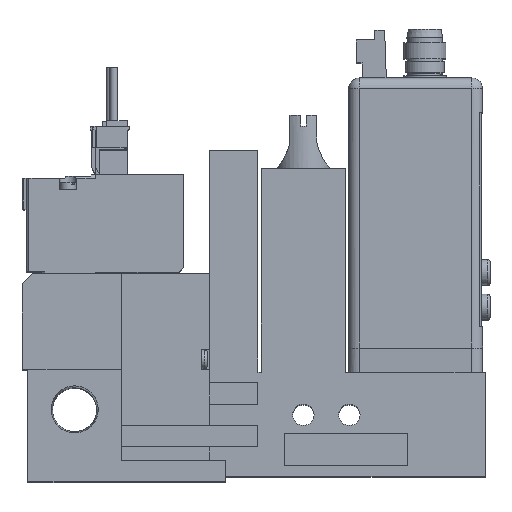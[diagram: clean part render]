
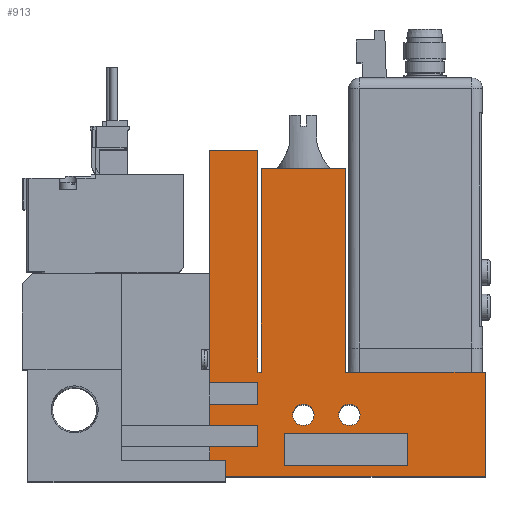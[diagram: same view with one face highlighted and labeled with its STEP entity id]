
A CAD part, top view. The second image highlights one B-rep face of the part: STEP entity #913.
In plain terms, the highlighted planar face has unit normal (0, 0, 1).
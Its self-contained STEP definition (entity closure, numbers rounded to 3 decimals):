
#913=ADVANCED_FACE('',(#3640,#3641,#3642,#3643),#3644,.T.);
#3640=FACE_OUTER_BOUND('',#9306,.T.);
#3641=FACE_BOUND('',#9307,.T.);
#3642=FACE_BOUND('',#9308,.T.);
#3643=FACE_BOUND('',#9309,.T.);
#3644=PLANE('',#9310);
#9306=EDGE_LOOP('',(#16607,#16608,#16609,#16610,#16611,#16612,#16613,#16614,#16615,#16616,#16617,#16618,#16619,#16620,#16621,#16622,#16623,#16624));
#9307=EDGE_LOOP('',(#16625,#16626,#16627,#16628));
#9308=EDGE_LOOP('',(#16629));
#9309=EDGE_LOOP('',(#16630));
#9310=AXIS2_PLACEMENT_3D('',#16631,#16632,#16633);
#16607=ORIENTED_EDGE('',*,*,#34669,.T.);
#16608=ORIENTED_EDGE('',*,*,#34670,.T.);
#16609=ORIENTED_EDGE('',*,*,#34671,.T.);
#16610=ORIENTED_EDGE('',*,*,#34672,.T.);
#16611=ORIENTED_EDGE('',*,*,#34673,.T.);
#16612=ORIENTED_EDGE('',*,*,#34674,.T.);
#16613=ORIENTED_EDGE('',*,*,#34675,.T.);
#16614=ORIENTED_EDGE('',*,*,#34676,.T.);
#16615=ORIENTED_EDGE('',*,*,#34677,.T.);
#16616=ORIENTED_EDGE('',*,*,#34678,.T.);
#16617=ORIENTED_EDGE('',*,*,#34679,.T.);
#16618=ORIENTED_EDGE('',*,*,#34680,.T.);
#16619=ORIENTED_EDGE('',*,*,#34681,.T.);
#16620=ORIENTED_EDGE('',*,*,#34682,.T.);
#16621=ORIENTED_EDGE('',*,*,#34683,.T.);
#16622=ORIENTED_EDGE('',*,*,#34684,.T.);
#16623=ORIENTED_EDGE('',*,*,#34685,.T.);
#16624=ORIENTED_EDGE('',*,*,#34686,.T.);
#16625=ORIENTED_EDGE('',*,*,#34687,.T.);
#16626=ORIENTED_EDGE('',*,*,#34688,.T.);
#16627=ORIENTED_EDGE('',*,*,#34689,.T.);
#16628=ORIENTED_EDGE('',*,*,#34690,.T.);
#16629=ORIENTED_EDGE('',*,*,#34691,.T.);
#16630=ORIENTED_EDGE('',*,*,#34692,.T.);
#16631=CARTESIAN_POINT('',(0.0,0.0,10.0));
#16632=DIRECTION('',(0.0,0.0,1.0));
#16633=DIRECTION('',(1.0,0.0,0.0));
#34669=EDGE_CURVE('',#41919,#41920,#41921,.T.);
#34670=EDGE_CURVE('',#41920,#41922,#41923,.T.);
#34671=EDGE_CURVE('',#41922,#41924,#41925,.T.);
#34672=EDGE_CURVE('',#41924,#41926,#41927,.T.);
#34673=EDGE_CURVE('',#41926,#41928,#41929,.T.);
#34674=EDGE_CURVE('',#41928,#41930,#41931,.T.);
#34675=EDGE_CURVE('',#41930,#41932,#41933,.T.);
#34676=EDGE_CURVE('',#41932,#41934,#41935,.T.);
#34677=EDGE_CURVE('',#41934,#41936,#41937,.T.);
#34678=EDGE_CURVE('',#41936,#41938,#41939,.T.);
#34679=EDGE_CURVE('',#41938,#41940,#41941,.T.);
#34680=EDGE_CURVE('',#41940,#41942,#41943,.T.);
#34681=EDGE_CURVE('',#41942,#41944,#41945,.T.);
#34682=EDGE_CURVE('',#41944,#41946,#41947,.T.);
#34683=EDGE_CURVE('',#41946,#41948,#41949,.T.);
#34684=EDGE_CURVE('',#41948,#41950,#41951,.T.);
#34685=EDGE_CURVE('',#41950,#41952,#41953,.T.);
#34686=EDGE_CURVE('',#41952,#41919,#41954,.T.);
#34687=EDGE_CURVE('',#41955,#41956,#41957,.T.);
#34688=EDGE_CURVE('',#41956,#41958,#41959,.T.);
#34689=EDGE_CURVE('',#41958,#41960,#41961,.T.);
#34690=EDGE_CURVE('',#41960,#41955,#41962,.T.);
#34691=EDGE_CURVE('',#41963,#41963,#41964,.T.);
#34692=EDGE_CURVE('',#41965,#41965,#41966,.T.);
#41919=VERTEX_POINT('',#52757);
#41920=VERTEX_POINT('',#52758);
#41921=LINE('',#52759,#52760);
#41922=VERTEX_POINT('',#52761);
#41923=LINE('',#52762,#52763);
#41924=VERTEX_POINT('',#52764);
#41925=LINE('',#52765,#52766);
#41926=VERTEX_POINT('',#52767);
#41927=LINE('',#52768,#52769);
#41928=VERTEX_POINT('',#52770);
#41929=LINE('',#52771,#52772);
#41930=VERTEX_POINT('',#52773);
#41931=LINE('',#52774,#52775);
#41932=VERTEX_POINT('',#52776);
#41933=LINE('',#52777,#52778);
#41934=VERTEX_POINT('',#52779);
#41935=LINE('',#52780,#52781);
#41936=VERTEX_POINT('',#52782);
#41937=LINE('',#52783,#52784);
#41938=VERTEX_POINT('',#52785);
#41939=LINE('',#52786,#52787);
#41940=VERTEX_POINT('',#52788);
#41941=LINE('',#52789,#52790);
#41942=VERTEX_POINT('',#52791);
#41943=LINE('',#52792,#52793);
#41944=VERTEX_POINT('',#52794);
#41945=LINE('',#52795,#52796);
#41946=VERTEX_POINT('',#52797);
#41947=LINE('',#52798,#52799);
#41948=VERTEX_POINT('',#52800);
#41949=LINE('',#52801,#52802);
#41950=VERTEX_POINT('',#52803);
#41951=LINE('',#52804,#52805);
#41952=VERTEX_POINT('',#52806);
#41953=LINE('',#52807,#52808);
#41954=LINE('',#52809,#52810);
#41955=VERTEX_POINT('',#52811);
#41956=VERTEX_POINT('',#52812);
#41957=LINE('',#52813,#52814);
#41958=VERTEX_POINT('',#52815);
#41959=LINE('',#52816,#52817);
#41960=VERTEX_POINT('',#52818);
#41961=LINE('',#52819,#52820);
#41962=LINE('',#52821,#52822);
#41963=VERTEX_POINT('',#52823);
#41964=CIRCLE('',#52824,2.0);
#41965=VERTEX_POINT('',#52825);
#41966=CIRCLE('',#52826,2.0);
#52757=CARTESIAN_POINT('',(35.1,61.0,10.0));
#52758=CARTESIAN_POINT('',(35.1,17.5,10.0));
#52759=CARTESIAN_POINT('',(35.1,61.0,10.0));
#52760=VECTOR('',#67705,1.0);
#52761=CARTESIAN_POINT('',(44.1,17.5,10.0));
#52762=CARTESIAN_POINT('',(0.0,17.5,10.0));
#52763=VECTOR('',#67706,1.0);
#52764=CARTESIAN_POINT('',(44.1,13.5,10.0));
#52765=CARTESIAN_POINT('',(44.1,0.0,10.0));
#52766=VECTOR('',#67707,1.0);
#52767=CARTESIAN_POINT('',(35.1,13.5,10.0));
#52768=CARTESIAN_POINT('',(0.0,13.5,10.0));
#52769=VECTOR('',#67708,1.0);
#52770=CARTESIAN_POINT('',(35.1,9.5,10.0));
#52771=CARTESIAN_POINT('',(35.1,0.0,10.0));
#52772=VECTOR('',#67709,1.0);
#52773=CARTESIAN_POINT('',(44.1,9.5,10.0));
#52774=CARTESIAN_POINT('',(0.0,9.5,10.0));
#52775=VECTOR('',#67710,1.0);
#52776=CARTESIAN_POINT('',(44.1,5.5,10.0));
#52777=CARTESIAN_POINT('',(44.1,0.0,10.0));
#52778=VECTOR('',#67711,1.0);
#52779=CARTESIAN_POINT('',(35.1,5.5,10.0));
#52780=CARTESIAN_POINT('',(0.0,5.5,10.0));
#52781=VECTOR('',#67712,1.0);
#52782=CARTESIAN_POINT('',(35.1,0.0,10.0));
#52783=CARTESIAN_POINT('',(35.1,0.0,10.0));
#52784=VECTOR('',#67713,1.0);
#52785=CARTESIAN_POINT('',(86.6,0.0,10.0));
#52786=CARTESIAN_POINT('',(18.6,0.0,10.0));
#52787=VECTOR('',#67714,1.0);
#52788=CARTESIAN_POINT('',(86.6,19.5,10.0));
#52789=CARTESIAN_POINT('',(86.6,0.0,10.0));
#52790=VECTOR('',#67715,1.0);
#52791=CARTESIAN_POINT('',(60.45,19.5,10.0));
#52792=CARTESIAN_POINT('',(86.6,19.5,10.0));
#52793=VECTOR('',#67716,1.0);
#52794=CARTESIAN_POINT('',(60.45,57.5,10.0));
#52795=CARTESIAN_POINT('',(60.45,19.5,10.0));
#52796=VECTOR('',#67717,1.0);
#52797=CARTESIAN_POINT('',(44.75,57.5,10.0));
#52798=CARTESIAN_POINT('',(60.45,57.5,10.0));
#52799=VECTOR('',#67718,1.0);
#52800=CARTESIAN_POINT('',(44.75,19.5,10.0));
#52801=CARTESIAN_POINT('',(44.75,57.5,10.0));
#52802=VECTOR('',#67719,1.0);
#52803=CARTESIAN_POINT('',(44.1,19.5,10.0));
#52804=CARTESIAN_POINT('',(44.75,19.5,10.0));
#52805=VECTOR('',#67720,1.0);
#52806=CARTESIAN_POINT('',(44.1,61.0,10.0));
#52807=CARTESIAN_POINT('',(44.1,19.5,10.0));
#52808=VECTOR('',#67721,1.0);
#52809=CARTESIAN_POINT('',(44.1,61.0,10.0));
#52810=VECTOR('',#67722,1.0);
#52811=CARTESIAN_POINT('',(49.1,2.0,10.0));
#52812=CARTESIAN_POINT('',(49.1,8.0,10.0));
#52813=CARTESIAN_POINT('',(49.1,0.0,10.0));
#52814=VECTOR('',#67723,1.0);
#52815=CARTESIAN_POINT('',(72.1,8.0,10.0));
#52816=CARTESIAN_POINT('',(0.0,8.0,10.0));
#52817=VECTOR('',#67724,1.0);
#52818=CARTESIAN_POINT('',(72.1,2.0,10.0));
#52819=CARTESIAN_POINT('',(72.1,0.0,10.0));
#52820=VECTOR('',#67725,1.0);
#52821=CARTESIAN_POINT('',(0.0,2.0,10.0));
#52822=VECTOR('',#67726,1.0);
#52823=CARTESIAN_POINT('',(54.6,11.5,10.0));
#52824=AXIS2_PLACEMENT_3D('',#67727,#67728,#67729);
#52825=CARTESIAN_POINT('',(63.2,11.5,10.0));
#52826=AXIS2_PLACEMENT_3D('',#67730,#67731,#67732);
#67705=DIRECTION('',(0.0,-1.0,0.0));
#67706=DIRECTION('',(1.0,0.0,0.0));
#67707=DIRECTION('',(0.0,-1.0,0.0));
#67708=DIRECTION('',(-1.0,0.0,0.0));
#67709=DIRECTION('',(0.0,-1.0,0.0));
#67710=DIRECTION('',(1.0,0.0,0.0));
#67711=DIRECTION('',(0.0,-1.0,0.0));
#67712=DIRECTION('',(-1.0,0.0,0.0));
#67713=DIRECTION('',(0.0,-1.0,0.0));
#67714=DIRECTION('',(1.0,0.0,0.0));
#67715=DIRECTION('',(0.0,1.0,0.0));
#67716=DIRECTION('',(-1.0,0.0,0.0));
#67717=DIRECTION('',(0.0,1.0,0.0));
#67718=DIRECTION('',(-1.0,0.0,0.0));
#67719=DIRECTION('',(0.0,-1.0,0.0));
#67720=DIRECTION('',(-1.0,0.0,0.0));
#67721=DIRECTION('',(0.0,1.0,0.0));
#67722=DIRECTION('',(-1.0,0.0,0.0));
#67723=DIRECTION('',(0.0,1.0,0.0));
#67724=DIRECTION('',(1.0,0.0,0.0));
#67725=DIRECTION('',(0.0,-1.0,0.0));
#67726=DIRECTION('',(-1.0,0.0,0.0));
#67727=CARTESIAN_POINT('',(52.6,11.5,10.0));
#67728=DIRECTION('',(0.0,0.0,-1.0));
#67729=DIRECTION('',(1.0,0.0,0.0));
#67730=CARTESIAN_POINT('',(61.2,11.5,10.0));
#67731=DIRECTION('',(0.0,0.0,-1.0));
#67732=DIRECTION('',(1.0,0.0,0.0));
